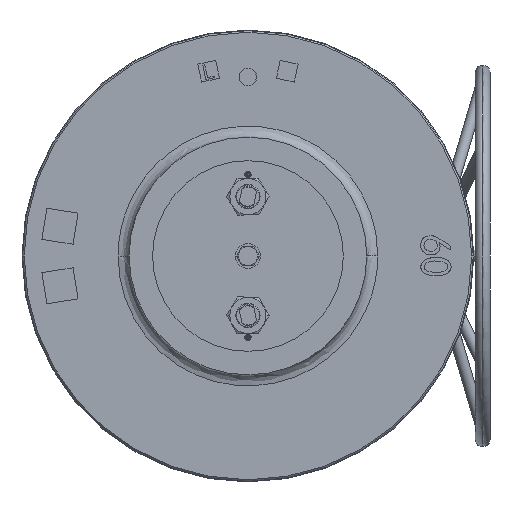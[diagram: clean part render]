
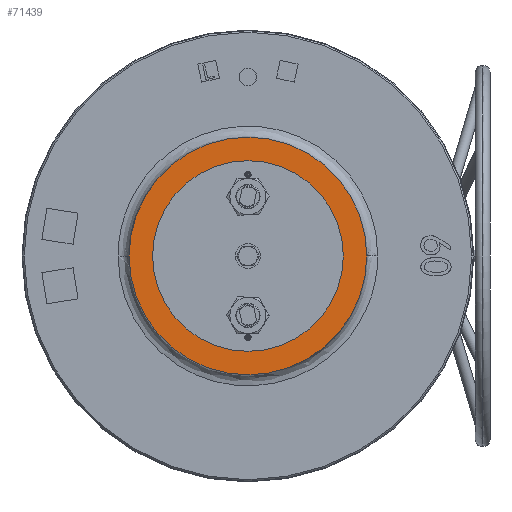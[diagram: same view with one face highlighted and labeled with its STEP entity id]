
A CAD part, left-side view. The second image highlights one B-rep face of the part: STEP entity #71439.
In plain terms, the highlighted planar face has unit normal (-1, 0, 0).
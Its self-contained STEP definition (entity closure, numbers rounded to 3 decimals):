
#2658 = AXIS2_PLACEMENT_3D ( 'NONE', #89867, #48930, #35095 ) ;
#6377 = DIRECTION ( 'NONE',  ( 0., 0., 1. ) ) ;
#6873 = VERTEX_POINT ( 'NONE', #27608 ) ;
#12270 = AXIS2_PLACEMENT_3D ( 'NONE', #13449, #34542, #21697 ) ;
#13449 = CARTESIAN_POINT ( 'NONE',  ( -699.5, 108., 82.5 ) ) ;
#16131 = DIRECTION ( 'NONE',  ( 0., 0., -1. ) ) ;
#20970 = CARTESIAN_POINT ( 'NONE',  ( -699.5, 108., 244.5 ) ) ;
#21697 = DIRECTION ( 'NONE',  ( 0., 0., -1. ) ) ;
#21870 = VERTEX_POINT ( 'NONE', #26907 ) ;
#24876 = VERTEX_POINT ( 'NONE', #68570 ) ;
#26907 = CARTESIAN_POINT ( 'NONE',  ( -699.5, 108., -47.5 ) ) ;
#27062 = CARTESIAN_POINT ( 'NONE',  ( -699.5, 108., 82.5 ) ) ;
#27608 = CARTESIAN_POINT ( 'NONE',  ( -699.5, 108., -79.5 ) ) ;
#31971 = EDGE_CURVE ( 'NONE', #24876, #21870, #62099, .T. ) ;
#32349 = ORIENTED_EDGE ( 'NONE', *, *, #78864, .F. ) ;
#34542 = DIRECTION ( 'NONE',  ( -1., 0., 0. ) ) ;
#34626 = PLANE ( 'NONE',  #2658 ) ;
#35095 = DIRECTION ( 'NONE',  ( 0., 0., -1. ) ) ;
#35533 = DIRECTION ( 'NONE',  ( 1., 0., 0. ) ) ;
#36780 = AXIS2_PLACEMENT_3D ( 'NONE', #69113, #35533, #76942 ) ;
#41567 = FACE_BOUND ( 'NONE', #67081, .T. ) ;
#47694 = EDGE_LOOP ( 'NONE', ( #32349, #50742 ) ) ;
#48677 = DIRECTION ( 'NONE',  ( 1., 0., 0. ) ) ;
#48930 = DIRECTION ( 'NONE',  ( 1., 0., 0. ) ) ;
#49199 = CIRCLE ( 'NONE', #56525, 162. ) ;
#50742 = ORIENTED_EDGE ( 'NONE', *, *, #53380, .F. ) ;
#51059 = CARTESIAN_POINT ( 'NONE',  ( -699.5, 108., 82.5 ) ) ;
#53380 = EDGE_CURVE ( 'NONE', #6873, #69757, #69078, .T. ) ;
#56525 = AXIS2_PLACEMENT_3D ( 'NONE', #27062, #48677, #6377 ) ;
#62099 = CIRCLE ( 'NONE', #75292, 130. ) ;
#66568 = ORIENTED_EDGE ( 'NONE', *, *, #90410, .F. ) ;
#67081 = EDGE_LOOP ( 'NONE', ( #66568, #87907 ) ) ;
#68570 = CARTESIAN_POINT ( 'NONE',  ( -699.5, 108., 212.5 ) ) ;
#69078 = CIRCLE ( 'NONE', #36780, 162. ) ;
#69113 = CARTESIAN_POINT ( 'NONE',  ( -699.5, 108., 82.5 ) ) ;
#69587 = FACE_OUTER_BOUND ( 'NONE', #47694, .T. ) ;
#69757 = VERTEX_POINT ( 'NONE', #20970 ) ;
#71439 = ADVANCED_FACE ( 'NONE', ( #41567, #69587 ), #34626, .F. ) ;
#75292 = AXIS2_PLACEMENT_3D ( 'NONE', #51059, #85992, #16131 ) ;
#76857 = CIRCLE ( 'NONE', #12270, 130. ) ;
#76942 = DIRECTION ( 'NONE',  ( 0., 0., 1. ) ) ;
#78864 = EDGE_CURVE ( 'NONE', #69757, #6873, #49199, .T. ) ;
#85992 = DIRECTION ( 'NONE',  ( -1., 0., 0. ) ) ;
#87907 = ORIENTED_EDGE ( 'NONE', *, *, #31971, .F. ) ;
#89867 = CARTESIAN_POINT ( 'NONE',  ( -699.5, 108., 82.5 ) ) ;
#90410 = EDGE_CURVE ( 'NONE', #21870, #24876, #76857, .T. ) ;
